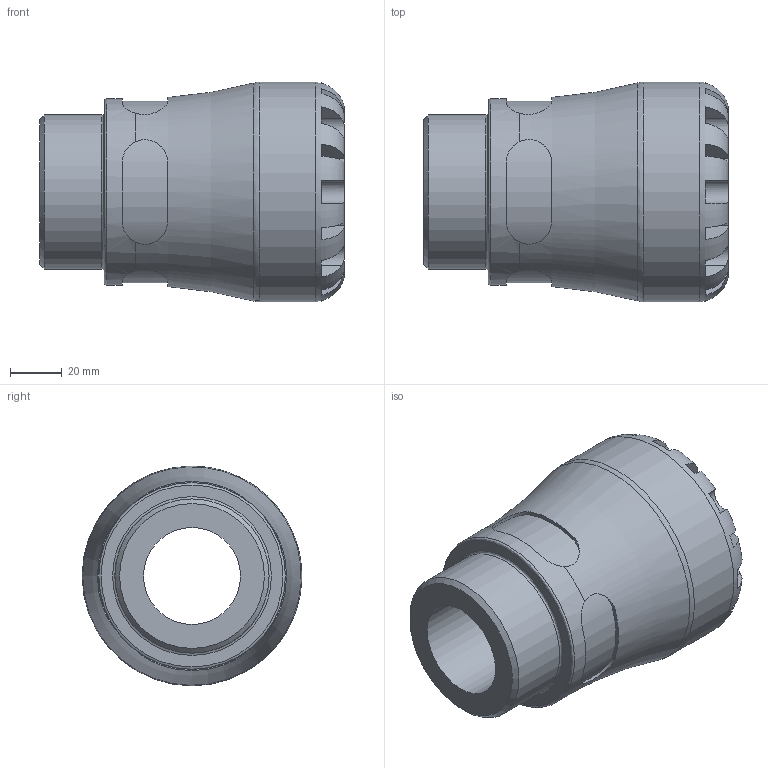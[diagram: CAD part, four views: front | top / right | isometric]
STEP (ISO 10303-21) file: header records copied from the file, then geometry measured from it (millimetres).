
FILE_DESCRIPTION(/* description */ ('PLASSON MALE ADAPTOR 50X2" SERIES 1'),/* implementation_level */ '2;1');
FILE_NAME(/* name */ 'C:\Dropbox\KIMPROJECTS-Inventor\99-16-3568-Processing\S1\1002\100200050020_190200050020.ipt.stp',/* time_stamp */ '2017-07-27T14:39:35+03:00',/* author */ ('KIM'),/* organization */ (''),/* preprocessor_version */ 'ST-DEVELOPER v15.6',/* originating_system */ 'Autodesk Inventor 2015',/* authorisation */ '');
FILE_SCHEMA (('AUTOMOTIVE_DESIGN { 1 0 10303 214 3 1 1 }'));
Length unit declared in the file: millimetre
Products named in the file (1): 100200050020_190200050020
Bounding box: 118 x 85 x 85 mm (x, y, z)
Volume: 311618.8 mm3; surface area: 53680.6 mm2
Topology: 1 solids, 1 shells, 100 faces, 257 edges, 161 vertices
Faces by surface type: plane 60, cylinder 33, torus 5, cone 2
Full cylindrical faces by diameter (mm): 37.5 x1, 50 x1, 59.614 x1, 72.25 x1, 85 x1
Entity records: 3768 total; most frequent: CARTESIAN_POINT 1449, ORIENTED_EDGE 484, DIRECTION 462, EDGE_CURVE 242, AXIS2_PLACEMENT_3D 191, VERTEX_POINT 158, EDGE_LOOP 116, FACE_OUTER_BOUND 100
